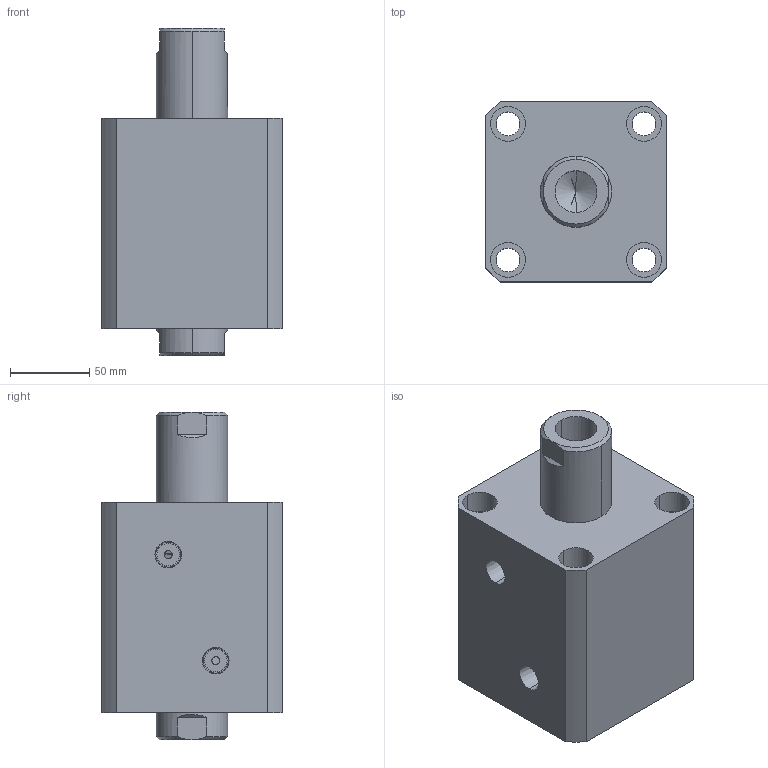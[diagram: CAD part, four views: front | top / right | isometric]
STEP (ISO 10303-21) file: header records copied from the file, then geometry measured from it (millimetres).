
FILE_DESCRIPTION (( 'STEP AP214' ), '1' );
FILE_NAME ('chtb-sw80x40n_asm.STEP', '2018-05-28T00:47:17', ( 'Windows' ), ( 'Microsoft' ), 'SwSTEP 2.0', 'SolidWorks 2015', '' );
FILE_SCHEMA (( 'AUTOMOTIVE_DESIGN' ));
Length unit declared in the file: millimetre
Products named in the file (4): CHTB-SW80X40NBT; CHTB-SD80X40NHSG; CHTB-SD80QG; chtb-sw80x40n_asm
Assembly tree (3 placements, depth 2):
  chtb-sw80x40n_asm
    CHTB-SD80QG
    CHTB-SD80X40NHSG
    CHTB-SW80X40NBT
Bounding box: 114 x 114 x 207 mm (x, y, z)
Volume: 1504282.4 mm3; surface area: 216037.2 mm2
Topology: 3 solids, 3 shells, 208 faces, 550 edges, 365 vertices
Faces by surface type: cylinder 109, plane 42, cone 25, torus 18, bspline 14
Entity records: 15645 total; most frequent: CARTESIAN_POINT 10539, ORIENTED_EDGE 1084, DIRECTION 970, EDGE_CURVE 542, AXIS2_PLACEMENT_3D 407, VERTEX_POINT 365, EDGE_LOOP 249, FACE_OUTER_BOUND 208
